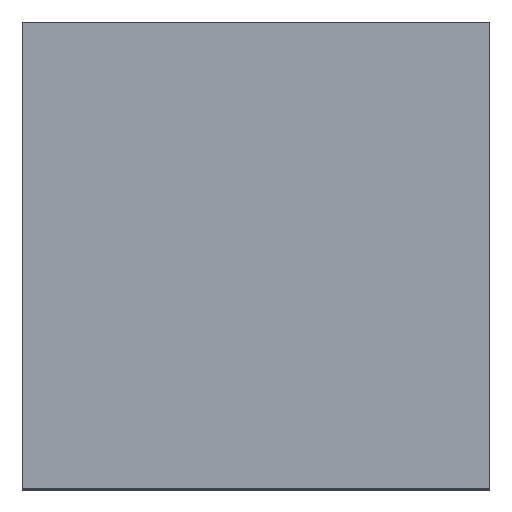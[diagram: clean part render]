
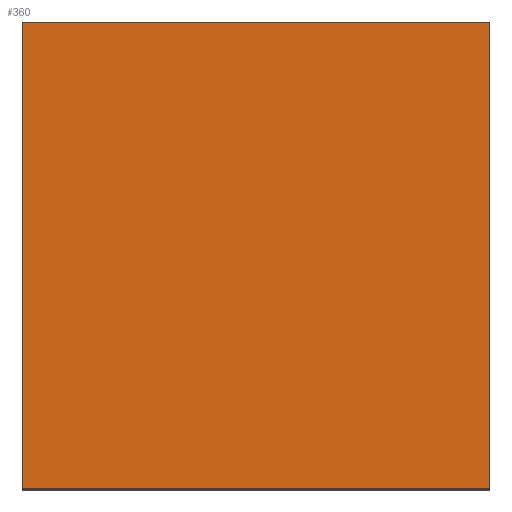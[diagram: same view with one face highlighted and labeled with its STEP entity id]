
A CAD part, top view. The second image highlights one B-rep face of the part: STEP entity #360.
In plain terms, the highlighted planar face has unit normal (0, 0, 1).
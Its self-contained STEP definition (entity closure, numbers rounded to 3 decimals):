
#360=ADVANCED_FACE('',(#620),#3621,.T.);
#620=FACE_OUTER_BOUND('',#880,.T.);
#880=EDGE_LOOP('',(#1227,#1228,#1229,#1230));
#1227=ORIENTED_EDGE('',*,*,#2195,.T.);
#1228=ORIENTED_EDGE('',*,*,#2197,.T.);
#1229=ORIENTED_EDGE('',*,*,#2196,.T.);
#1230=ORIENTED_EDGE('',*,*,#2198,.T.);
#2195=EDGE_CURVE('',#3214,#3215,#2914,.T.);
#2196=EDGE_CURVE('',#3216,#3217,#2915,.T.);
#2197=EDGE_CURVE('',#3215,#3216,#2916,.T.);
#2198=EDGE_CURVE('',#3217,#3214,#2917,.T.);
#2914=B_SPLINE_CURVE_WITH_KNOTS('',1,(#4553,#4554),.UNSPECIFIED.,.F.,.F.,
(2,2),(0.5,449.5),.UNSPECIFIED.);
#2915=B_SPLINE_CURVE_WITH_KNOTS('',1,(#4555,#4556),.UNSPECIFIED.,.F.,.F.,
(2,2),(0.5,449.5),.UNSPECIFIED.);
#2916=B_SPLINE_CURVE_WITH_KNOTS('',1,(#4557,#4558),.UNSPECIFIED.,.F.,.F.,
(2,2),(0.5,449.5),.UNSPECIFIED.);
#2917=B_SPLINE_CURVE_WITH_KNOTS('',1,(#4559,#4560),.UNSPECIFIED.,.F.,.F.,
(2,2),(0.5,449.5),.UNSPECIFIED.);
#3214=VERTEX_POINT('',#4509);
#3215=VERTEX_POINT('',#4510);
#3216=VERTEX_POINT('',#4511);
#3217=VERTEX_POINT('',#4512);
#3621=PLANE('',#3741);
#3741=AXIS2_PLACEMENT_3D('',#4286,#3845,$);
#3845=DIRECTION('',(0.,0.,1.));
#4286=CARTESIAN_POINT('',(272.542,256.264,515.));
#4509=CARTESIAN_POINT('',(226.982,-238.296,515.));
#4510=CARTESIAN_POINT('',(226.982,210.704,515.));
#4511=CARTESIAN_POINT('',(-222.018,210.704,515.));
#4512=CARTESIAN_POINT('',(-222.018,-238.296,515.));
#4553=CARTESIAN_POINT('',(226.982,-238.296,515.));
#4554=CARTESIAN_POINT('',(226.982,210.704,515.));
#4555=CARTESIAN_POINT('',(-222.018,210.704,515.));
#4556=CARTESIAN_POINT('',(-222.018,-238.296,515.));
#4557=CARTESIAN_POINT('',(226.982,210.704,515.));
#4558=CARTESIAN_POINT('',(-222.018,210.704,515.));
#4559=CARTESIAN_POINT('',(-222.018,-238.296,515.));
#4560=CARTESIAN_POINT('',(226.982,-238.296,515.));
